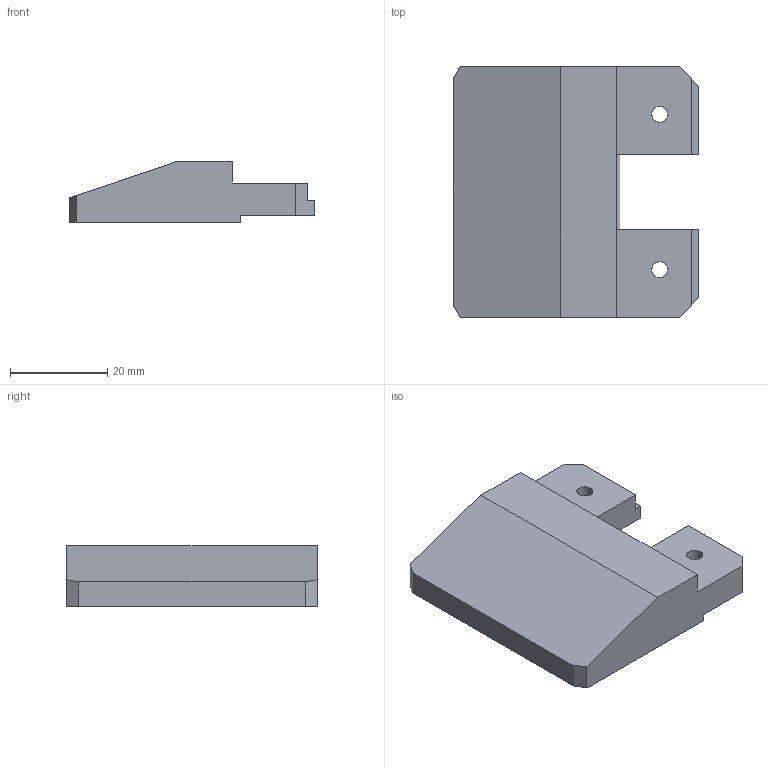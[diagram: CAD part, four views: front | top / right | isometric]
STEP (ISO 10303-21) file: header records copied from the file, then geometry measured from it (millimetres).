
FILE_DESCRIPTION (( 'STEP AP214' ), '1' );
FILE_NAME ('Alurahmenadapter_Kinvaro_F-20_D2879013000~0-STGA.STEP', '2016-05-17T07:39:23', ( 'Admin' ), ( 'Hewlett-Packard Company' ), 'SwSTEP 2.0', 'SolidWorks 2015', '' );
FILE_SCHEMA (( 'AUTOMOTIVE_DESIGN' ));
Length unit declared in the file: millimetre
Products named in the file (1): Alurahmenadapter_Kinvaro_F-20_D2879013000~0-STGA
Bounding box: 50.5 x 51.5 x 12.5 mm (x, y, z)
Volume: 20902.9 mm3; surface area: 7007.8 mm2
Topology: 1 solids, 1 shells, 39 faces, 107 edges, 68 vertices
Faces by surface type: plane 26, cylinder 9, cone 4
Entity records: 1241 total; most frequent: CARTESIAN_POINT 211, ORIENTED_EDGE 206, DIRECTION 201, EDGE_CURVE 103, LINE 85, VECTOR 85, VERTEX_POINT 68, AXIS2_PLACEMENT_3D 58
